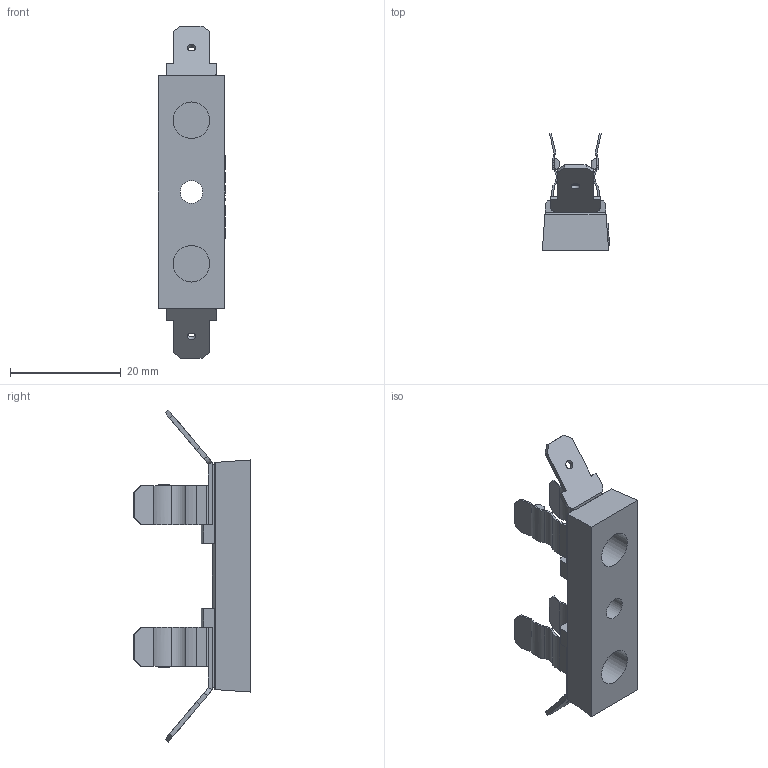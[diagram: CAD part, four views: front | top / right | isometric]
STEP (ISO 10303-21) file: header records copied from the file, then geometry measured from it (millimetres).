
FILE_DESCRIPTION(/* description */ (''),/* implementation_level */ '2;1');
FILE_NAME(/* name */ 'C:\Users\Hani\Desktop\work\BLC-16\BLC-16-B.stp',/* time_stamp */ '2021-07-10T11:59:48-07:00',/* author */ ('Hani'),/* organization */ (''),/* preprocessor_version */ 'ST-DEVELOPER v17',/* originating_system */ 'Autodesk Inventor 2019',/* authorisation */ '');
FILE_SCHEMA (('AUTOMOTIVE_DESIGN { 1 0 10303 214 3 1 1 }'));
Length unit declared in the file: inch
Products named in the file (6): BLC-20C; BLC-16-B; terminal; Bent-Terminal; Bent-Terminal_MIR; river
Assembly tree (7 placements, depth 2):
  BLC-20C
    BLC-16-B
    terminal  x2
    Bent-Terminal
    Bent-Terminal_MIR
    river  x2
Bounding box: 12.13 x 21.03 x 59.94 mm (x, y, z)
Volume: 3282.6 mm3; surface area: 4121.7 mm2
Topology: 7 solids, 7 shells, 339 faces, 892 edges, 586 vertices
Faces by surface type: plane 210, bspline 67, cylinder 62
Full cylindrical faces by diameter (mm): 1.524 x2, 3.556 x6, 4.064 x3, 4.445 x2, 6.604 x4, 7.874 x1
Entity records: 9312 total; most frequent: CARTESIAN_POINT 2568, ORIENTED_EDGE 1458, DIRECTION 1142, EDGE_CURVE 729, LINE 490, VECTOR 490, VERTEX_POINT 481, AXIS2_PLACEMENT_3D 326
